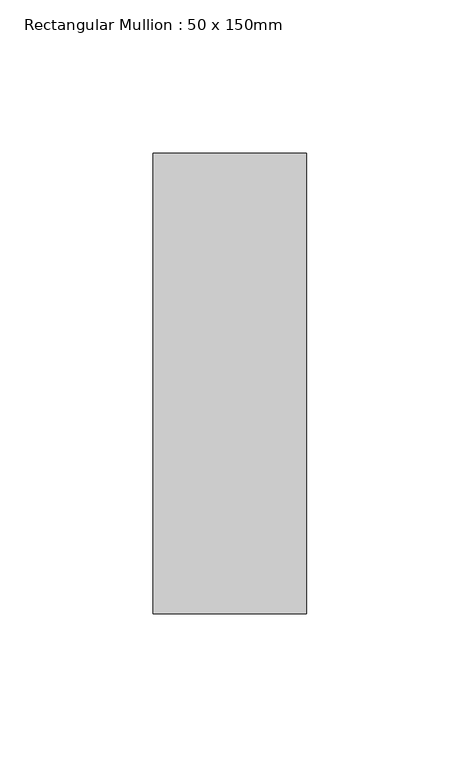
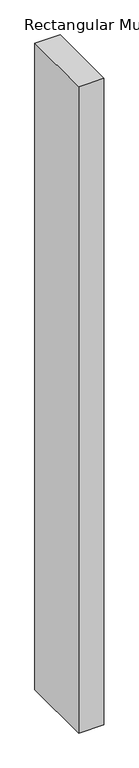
"""IFC4 building model written with IfcOpenShell, lengths in millimetres: member geometry, Rectangular Mullion : 50 x 150mm."""

import ifcopenshell
import ifcopenshell.guid

model = None  # the IFC model being written
_history = None  # IfcOwnerHistory: only IFC2X3 demands one
_inside = {}  # id of a spatial element -> (the spatial element, [elements in it])
_under = {}  # id of a project, library or spatial element -> (it, [spatial elements below it])
_declared = {}  # id of a project -> (the project, [libraries it declares])
_typed = {}  # id of a type object -> (the type object, [elements of that type])
_made_of = {}  # id of a material, layer set ... -> (it, [elements and type objects made of it])


def new_model(schema):
    """Start an empty IFC model of exactly this schema.

    Asked for "IFC4X3", IfcOpenShell would pick the latest addendum, in which some entities
    have other attributes; the version numbers below select the first issue.
    IFC2X3 requires an IfcOwnerHistory on every rooted entity: one is made here for all.
    """
    global model, _history
    if schema == "IFC4X3":
        model = ifcopenshell.file(schema_version=(4, 3, 0, 0))
    else:
        model = ifcopenshell.file(schema=schema)
    _inside.clear()
    _under.clear()
    _declared.clear()
    _typed.clear()
    _made_of.clear()
    _history = None
    if model.schema == "IFC2X3":
        org = make("IfcOrganization", Name="unknown")
        user = make(
            "IfcPersonAndOrganization",
            ThePerson=make("IfcPerson", FamilyName="unknown"),
            TheOrganization=org,
        )
        app = make(
            "IfcApplication",
            ApplicationDeveloper=org,
            Version="unknown",
            ApplicationFullName="unknown",
            ApplicationIdentifier="unknown",
        )
        _history = make(
            "IfcOwnerHistory",
            OwningUser=user,
            OwningApplication=app,
            ChangeAction="ADDED",
            CreationDate=0,
        )
    return model


def make(cls, **values):
    """One entity of the class cls with the attributes given. An attribute that is None is left unset."""
    return model.create_entity(
        cls, **{name: value for name, value in values.items() if value is not None}
    )


def rooted(cls, **values):
    """An entity with a GlobalId (a new one), such as an element, a storey or a relation."""
    return make(cls, GlobalId=ifcopenshell.guid.new(), OwnerHistory=_history, **values)


def si_unit(unit_type, name, prefix=None):
    """IfcSIUnit, for example si_unit("LENGTHUNIT", "METRE", prefix="MILLI")."""
    return make("IfcSIUnit", UnitType=unit_type, Prefix=prefix, Name=name)


def assignment(units):
    """IfcUnitAssignment: the units of a project."""
    return None if units is None else make("IfcUnitAssignment", Units=units)


def point(xyz):
    """IfcCartesianPoint."""
    return None if xyz is None else make("IfcCartesianPoint", Coordinates=xyz)


def direction(xyz):
    """IfcDirection."""
    return None if xyz is None else make("IfcDirection", DirectionRatios=xyz)


def frame(location, z_axis=None, x_axis=None):
    """IfcAxis2Placement3D, a coordinate frame: its origin and axes. An axis left out is left unset."""
    return make(
        "IfcAxis2Placement3D",
        Location=point(location),
        Axis=direction(z_axis),
        RefDirection=direction(x_axis),
    )


def origin():
    """The frame at (0, 0, 0) with its axes left unset."""
    return frame((0.0, 0.0, 0.0))


def place(relative_to, where):
    """IfcLocalPlacement: puts the frame where relative to a parent placement (None: the world)."""
    return make(
        "IfcLocalPlacement", PlacementRelTo=relative_to, RelativePlacement=where
    )


def context(
    kind, dimensions, precision=None, world=None, true_north=None, identifier=None
):
    """IfcGeometricRepresentationContext, for example the 3D "Model" context."""
    return make(
        "IfcGeometricRepresentationContext",
        ContextIdentifier=identifier,
        ContextType=kind,
        CoordinateSpaceDimension=dimensions,
        Precision=precision,
        WorldCoordinateSystem=world,
        TrueNorth=true_north,
    )


def project(units=None, contexts=None):
    """IfcProject with its units and contexts."""
    return rooted(
        "IfcProject",
        Name="project",
        RepresentationContexts=contexts,
        UnitsInContext=assignment(units),
    )


def spatial(cls, under=None, at=None, **own):
    """A site, building, storey or space (cls), placed at a placement, below another one or the project."""
    s = rooted(cls, ObjectPlacement=at, **own)
    if under is not None:
        _under.setdefault(under.id(), (under, []))[1].append(s)
    return s


def polyline(points):
    """IfcPolyline through the points."""
    return make("IfcPolyline", Points=[point(p) for p in points])


def outline(outer, holes=None, kind="AREA"):
    """IfcArbitraryClosedProfileDef: a profile drawn as a closed curve; with holes, ...WithVoids."""
    if holes is None:
        return make("IfcArbitraryClosedProfileDef", ProfileType=kind, OuterCurve=outer)
    return make(
        "IfcArbitraryProfileDefWithVoids",
        ProfileType=kind,
        OuterCurve=outer,
        InnerCurves=holes,
    )


def extrude(swept, where, along, depth):
    """IfcExtrudedAreaSolid: the profile swept, set in the frame where, extruded along a direction by depth."""
    return make(
        "IfcExtrudedAreaSolid",
        SweptArea=swept,
        Position=where,
        ExtrudedDirection=direction(along),
        Depth=depth,
    )


def shape(context_of_items, identifier, shape_type, items):
    """IfcShapeRepresentation: the items that make up one representation, for example the "Body"."""
    return make(
        "IfcShapeRepresentation",
        ContextOfItems=context_of_items,
        RepresentationIdentifier=identifier,
        RepresentationType=shape_type,
        Items=items,
    )


def source(mapping_origin, context_of_items, identifier, shape_type, items):
    """IfcRepresentationMap: a shape defined once, which mapped items show again and again."""
    return make(
        "IfcRepresentationMap",
        MappingOrigin=mapping_origin,
        MappedRepresentation=shape(context_of_items, identifier, shape_type, items),
    )


def transform(
    local_origin,
    x_axis=None,
    y_axis=None,
    z_axis=None,
    scale=None,
    scale2=None,
    scale3=None,
    uniform=True,
):
    """IfcCartesianTransformationOperator3D, or its non-uniform kind. x_axis, y_axis, z_axis: its Axis1, 2, 3."""
    if uniform:
        return make(
            "IfcCartesianTransformationOperator3D",
            Axis1=direction(x_axis),
            Axis2=direction(y_axis),
            LocalOrigin=point(local_origin),
            Scale=scale,
            Axis3=direction(z_axis),
        )
    return make(
        "IfcCartesianTransformationOperator3DnonUniform",
        Axis1=direction(x_axis),
        Axis2=direction(y_axis),
        LocalOrigin=point(local_origin),
        Scale=scale,
        Axis3=direction(z_axis),
        Scale2=scale2,
        Scale3=scale3,
    )


def mapped(mapping_source, mapping_target):
    """IfcMappedItem: shows the shape of a source again, moved by a transform."""
    return make(
        "IfcMappedItem", MappingSource=mapping_source, MappingTarget=mapping_target
    )


def made_of(thing, what):
    """Note that an element or type object is made of a material, layer set ...; save() writes the relation."""
    if what is not None:
        _made_of.setdefault(what.id(), (what, []))[1].append(thing)
    return thing


def element(
    cls,
    number,
    at=None,
    inside=None,
    cuts=None,
    type_object=None,
    material=None,
    context=None,
    identifier="Body",
    shape_type=None,
    held_by="IfcProductDefinitionShape",
    body=None,
    shapes=None,
    **own,
):
    """One element of the class cls, such as IfcWall. Its Tag is "e" and its number.

    at: its placement. inside: the storey or other place that contains it. cuts: it is an
    opening in that element (IfcRelVoidsElement). A single representation is given by context,
    identifier, shape_type and body (its items); several are given by shapes. held_by: the class
    of the entity that holds the representations. save() writes the other relations.
    """
    e = rooted(cls, Tag="e%d" % number, ObjectPlacement=at, **own)
    if body is not None:
        shapes = [shape(context, identifier, shape_type, body)]
    if shapes is not None:
        e.Representation = make(held_by, Representations=shapes)
    if inside is not None:
        _inside.setdefault(inside.id(), (inside, []))[1].append(e)
    if cuts is not None:
        rooted(
            "IfcRelVoidsElement", RelatingBuildingElement=cuts, RelatedOpeningElement=e
        )
    if type_object is not None:
        _typed.setdefault(type_object.id(), (type_object, []))[1].append(e)
    return made_of(e, material)


def aggregate(whole, parts):
    """IfcRelAggregates: a whole, such as a stair, and the parts it consists of."""
    return rooted("IfcRelAggregates", RelatingObject=whole, RelatedObjects=parts)


def save(model, path):
    """Write the relations noted so far, then the file.

    IfcRelAggregates (storeys below a building ...), IfcRelContainedInSpatialStructure (elements
    in a storey), IfcRelDefinesByType, IfcRelAssociatesMaterial and IfcRelDeclares: one each for
    every whole, place, type object, material and project.
    """
    for whole, parts in _under.values():
        aggregate(whole, parts)
    for where, things in _inside.values():
        rooted(
            "IfcRelContainedInSpatialStructure",
            RelatedElements=things,
            RelatingStructure=where,
        )
    for kind, things in _typed.values():
        rooted("IfcRelDefinesByType", RelatedObjects=things, RelatingType=kind)
    for what, things in _made_of.values():
        rooted("IfcRelAssociatesMaterial", RelatedObjects=things, RelatingMaterial=what)
    for by, libraries in _declared.values():
        rooted("IfcRelDeclares", RelatingContext=by, RelatedDefinitions=libraries)
    model.write(path)


def rectangular_mullion_50_x_150mm_614122c7(model_context):
    return source(origin(), model_context, "Body", "SweptSolid", [
        extrude(outline(polyline([(25.0, 75.0), (25.0, -75.0), (-25.0, -75.0), (-25.0, 75.0), (25.0, 75.0)])), frame((0.0, 0.0, -1353.3319311), z_axis=(0.0, 0.0, 1.0), x_axis=(1.0, 0.0, 0.0)), (0.0, 0.0, 1.0), 1353.3319311),
    ])


if __name__ == "__main__":
    model = new_model("IFC4")
    model_context = context("Model", 3, world=origin())
    ifc_project = project(units=[si_unit("LENGTHUNIT", "METRE", prefix="MILLI")], contexts=[model_context])
    site = spatial("IfcSite", under=ifc_project)
    building = spatial("IfcBuilding", under=site)
    placement = place(None, origin())
    rectangular_mullion_50_x_150mm_shape = rectangular_mullion_50_x_150mm_614122c7(model_context)
    element("IfcMember", 1, ObjectType="Rectangular Mullion : 50 x 150mm", at=placement, inside=building, context=model_context, shape_type="MappedRepresentation", body=[
        mapped(rectangular_mullion_50_x_150mm_shape, transform((0.0, 0.0, 0.0), x_axis=(1.0, 0.0, 0.0), y_axis=(0.0, 1.0, 0.0), z_axis=(0.0, 0.0, 1.0))),
    ])
    save(model, "model.ifc")
